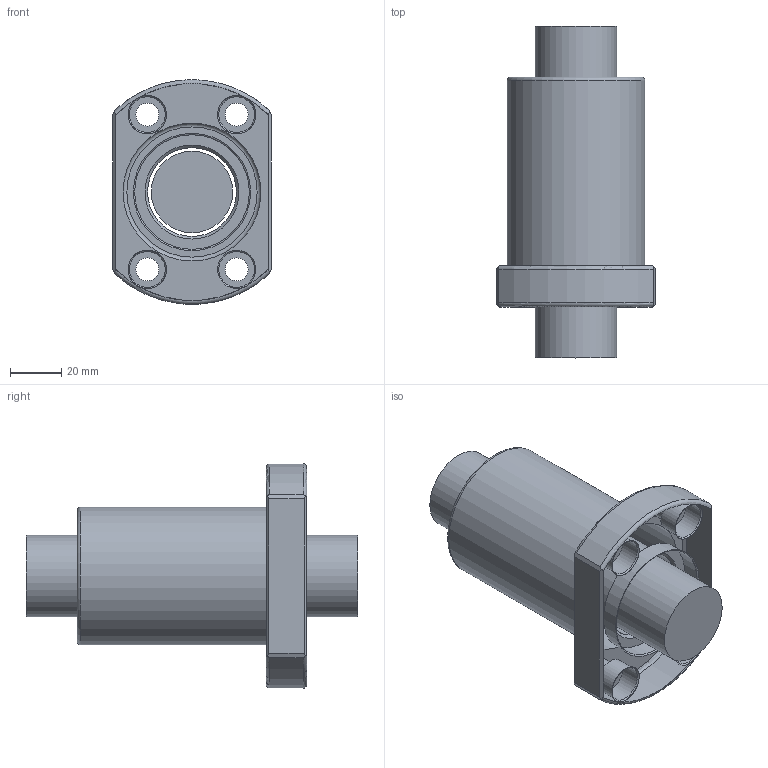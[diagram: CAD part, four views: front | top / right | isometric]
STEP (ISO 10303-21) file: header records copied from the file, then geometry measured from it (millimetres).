
FILE_DESCRIPTION(/* description */ (''),/* implementation_level */ '2;1');
FILE_NAME(/* name */ '3210T4D.prt.step',/* time_stamp */ '2008-12-05T09:36:23+08:00',/* author */ (''),/* organization */ (''),/* preprocessor_version */ 'ST-DEVELOPER v11',/* originating_system */ 'SIEMENS UGS NX 6.0',/* authorisation */ '');
FILE_SCHEMA (('AUTOMOTIVE_DESIGN { 1 0 10303 214 1 1 1 1 }'));
Length unit declared in the file: millimetre
Products named in the file (1): 3210T4D
Bounding box: 62 x 130 x 87.92 mm (x, y, z)
Volume: 250611.9 mm3; surface area: 50852.7 mm2
Topology: 2 solids, 2 shells, 53 faces, 130 edges, 84 vertices
Faces by surface type: plane 21, cylinder 15, cone 10, torus 7
Full cylindrical faces by diameter (mm): 9 x4, 14 x4, 31.95 x1, 34.8 x1, 44.9 x2, 54 x1
Entity records: 1558 total; most frequent: CARTESIAN_POINT 432, DIRECTION 234, ORIENTED_EDGE 182, AXIS2_PLACEMENT_3D 105, EDGE_LOOP 92, EDGE_CURVE 91, FACE_BOUND 74, VERTEX_POINT 71
